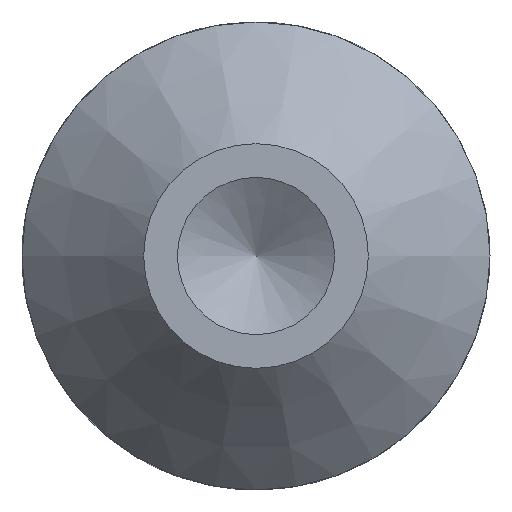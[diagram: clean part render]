
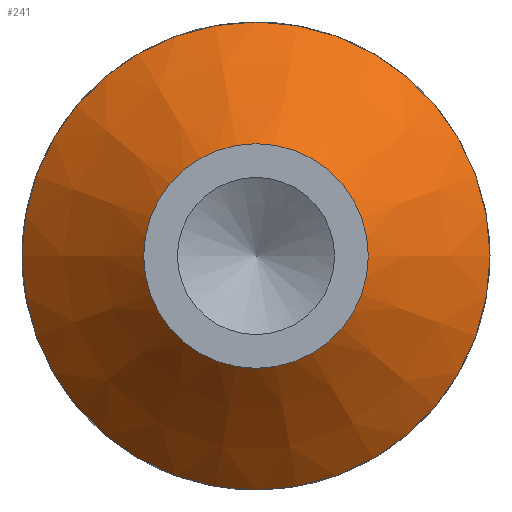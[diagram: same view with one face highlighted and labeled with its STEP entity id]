
A CAD part, left-side view. The second image highlights one B-rep face of the part: STEP entity #241.
In plain terms, the highlighted conical face has half-angle 45 degrees and reference radius 1.175 mm.
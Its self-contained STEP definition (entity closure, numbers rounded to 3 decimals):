
#22=CONICAL_SURFACE($,#274,1.175,45.);
#27=FACE_BOUND($,#92,.T.);
#72=FACE_OUTER_BOUND($,#91,.T.);
#91=EDGE_LOOP($,(#217));
#92=EDGE_LOOP($,(#218));
#103=CIRCLE($,#264,1.588);
#107=CIRCLE($,#272,0.762);
#126=VERTEX_POINT($,#462);
#129=VERTEX_POINT($,#473);
#155=EDGE_CURVE($,#126,#126,#103,.T.);
#159=EDGE_CURVE($,#129,#129,#107,.T.);
#217=ORIENTED_EDGE($,*,*,#155,.F.);
#218=ORIENTED_EDGE($,*,*,#159,.T.);
#241=ADVANCED_FACE($,(#72,#27),#22,.T.);
#264=AXIS2_PLACEMENT_3D($,#463,#326,#327);
#272=AXIS2_PLACEMENT_3D($,#474,#342,#343);
#274=AXIS2_PLACEMENT_3D($,#477,#346,#347);
#326=DIRECTION('center_axis',(1.,0.,0.));
#327=DIRECTION('ref_axis',(0.,1.,0.));
#342=DIRECTION('center_axis',(1.,0.,0.));
#343=DIRECTION('ref_axis',(0.,1.,0.));
#346=DIRECTION('center_axis',(1.,0.,0.));
#347=DIRECTION('ref_axis',(0.,1.,0.));
#462=CARTESIAN_POINT('',(4.001,1.588,0.));
#463=CARTESIAN_POINT('Origin',(4.001,0.,0.));
#473=CARTESIAN_POINT('',(3.175,0.762,0.));
#474=CARTESIAN_POINT('Origin',(3.175,0.,0.));
#477=CARTESIAN_POINT('Origin',(3.588,0.,0.));
